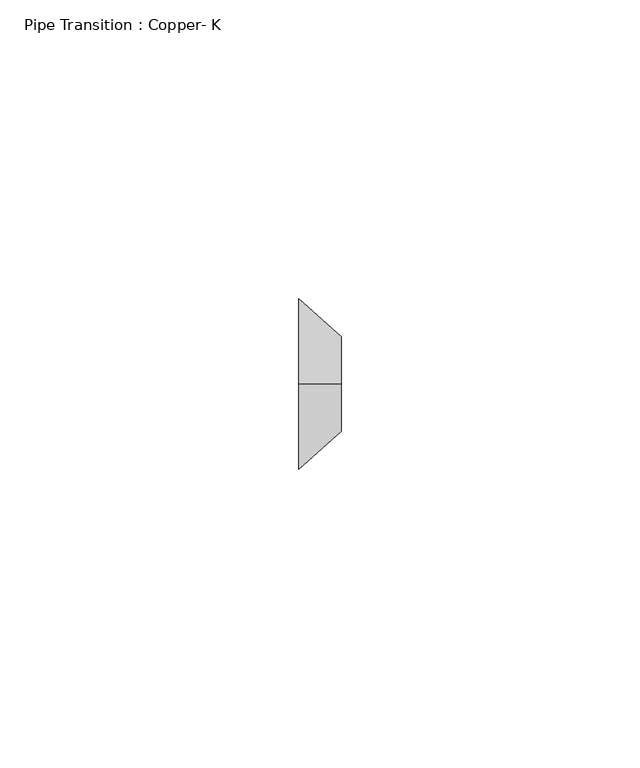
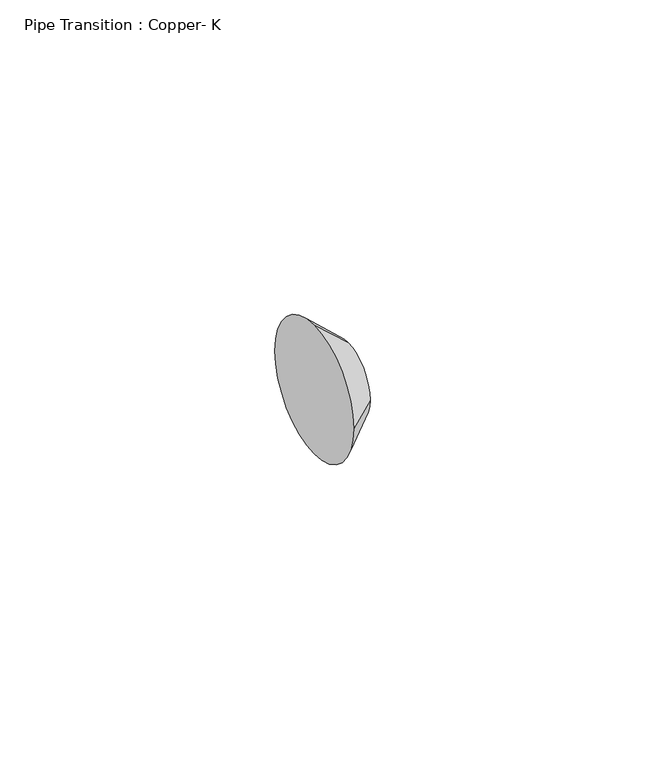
"""IFC4 building model written with IfcOpenShell, lengths in millimetres: pipe fitting geometry, Pipe Transition : Copper- K."""

import ifcopenshell
import ifcopenshell.guid

model = None  # the IFC model being written
_history = None  # IfcOwnerHistory: only IFC2X3 demands one
_inside = {}  # id of a spatial element -> (the spatial element, [elements in it])
_under = {}  # id of a project, library or spatial element -> (it, [spatial elements below it])
_declared = {}  # id of a project -> (the project, [libraries it declares])
_typed = {}  # id of a type object -> (the type object, [elements of that type])
_made_of = {}  # id of a material, layer set ... -> (it, [elements and type objects made of it])


def new_model(schema):
    """Start an empty IFC model of exactly this schema.

    Asked for "IFC4X3", IfcOpenShell would pick the latest addendum, in which some entities
    have other attributes; the version numbers below select the first issue.
    IFC2X3 requires an IfcOwnerHistory on every rooted entity: one is made here for all.
    """
    global model, _history
    if schema == "IFC4X3":
        model = ifcopenshell.file(schema_version=(4, 3, 0, 0))
    else:
        model = ifcopenshell.file(schema=schema)
    _inside.clear()
    _under.clear()
    _declared.clear()
    _typed.clear()
    _made_of.clear()
    _history = None
    if model.schema == "IFC2X3":
        org = make("IfcOrganization", Name="unknown")
        user = make(
            "IfcPersonAndOrganization",
            ThePerson=make("IfcPerson", FamilyName="unknown"),
            TheOrganization=org,
        )
        app = make(
            "IfcApplication",
            ApplicationDeveloper=org,
            Version="unknown",
            ApplicationFullName="unknown",
            ApplicationIdentifier="unknown",
        )
        _history = make(
            "IfcOwnerHistory",
            OwningUser=user,
            OwningApplication=app,
            ChangeAction="ADDED",
            CreationDate=0,
        )
    return model


def make(cls, **values):
    """One entity of the class cls with the attributes given. An attribute that is None is left unset."""
    return model.create_entity(
        cls, **{name: value for name, value in values.items() if value is not None}
    )


def rooted(cls, **values):
    """An entity with a GlobalId (a new one), such as an element, a storey or a relation."""
    return make(cls, GlobalId=ifcopenshell.guid.new(), OwnerHistory=_history, **values)


def si_unit(unit_type, name, prefix=None):
    """IfcSIUnit, for example si_unit("LENGTHUNIT", "METRE", prefix="MILLI")."""
    return make("IfcSIUnit", UnitType=unit_type, Prefix=prefix, Name=name)


def assignment(units):
    """IfcUnitAssignment: the units of a project."""
    return None if units is None else make("IfcUnitAssignment", Units=units)


def point(xyz):
    """IfcCartesianPoint."""
    return None if xyz is None else make("IfcCartesianPoint", Coordinates=xyz)


def direction(xyz):
    """IfcDirection."""
    return None if xyz is None else make("IfcDirection", DirectionRatios=xyz)


def frame(location, z_axis=None, x_axis=None):
    """IfcAxis2Placement3D, a coordinate frame: its origin and axes. An axis left out is left unset."""
    return make(
        "IfcAxis2Placement3D",
        Location=point(location),
        Axis=direction(z_axis),
        RefDirection=direction(x_axis),
    )


def origin():
    """The frame at (0, 0, 0) with its axes left unset."""
    return frame((0.0, 0.0, 0.0))


def place(relative_to, where):
    """IfcLocalPlacement: puts the frame where relative to a parent placement (None: the world)."""
    return make(
        "IfcLocalPlacement", PlacementRelTo=relative_to, RelativePlacement=where
    )


def context(
    kind, dimensions, precision=None, world=None, true_north=None, identifier=None
):
    """IfcGeometricRepresentationContext, for example the 3D "Model" context."""
    return make(
        "IfcGeometricRepresentationContext",
        ContextIdentifier=identifier,
        ContextType=kind,
        CoordinateSpaceDimension=dimensions,
        Precision=precision,
        WorldCoordinateSystem=world,
        TrueNorth=true_north,
    )


def project(units=None, contexts=None):
    """IfcProject with its units and contexts."""
    return rooted(
        "IfcProject",
        Name="project",
        RepresentationContexts=contexts,
        UnitsInContext=assignment(units),
    )


def spatial(cls, under=None, at=None, **own):
    """A site, building, storey or space (cls), placed at a placement, below another one or the project."""
    s = rooted(cls, ObjectPlacement=at, **own)
    if under is not None:
        _under.setdefault(under.id(), (under, []))[1].append(s)
    return s


def circle_curve(where, radius):
    """IfcCircle in the frame where."""
    return make("IfcCircle", Position=where, Radius=radius)


def shape(context_of_items, identifier, shape_type, items):
    """IfcShapeRepresentation: the items that make up one representation, for example the "Body"."""
    return make(
        "IfcShapeRepresentation",
        ContextOfItems=context_of_items,
        RepresentationIdentifier=identifier,
        RepresentationType=shape_type,
        Items=items,
    )


def source(mapping_origin, context_of_items, identifier, shape_type, items):
    """IfcRepresentationMap: a shape defined once, which mapped items show again and again."""
    return make(
        "IfcRepresentationMap",
        MappingOrigin=mapping_origin,
        MappedRepresentation=shape(context_of_items, identifier, shape_type, items),
    )


def transform(
    local_origin,
    x_axis=None,
    y_axis=None,
    z_axis=None,
    scale=None,
    scale2=None,
    scale3=None,
    uniform=True,
):
    """IfcCartesianTransformationOperator3D, or its non-uniform kind. x_axis, y_axis, z_axis: its Axis1, 2, 3."""
    if uniform:
        return make(
            "IfcCartesianTransformationOperator3D",
            Axis1=direction(x_axis),
            Axis2=direction(y_axis),
            LocalOrigin=point(local_origin),
            Scale=scale,
            Axis3=direction(z_axis),
        )
    return make(
        "IfcCartesianTransformationOperator3DnonUniform",
        Axis1=direction(x_axis),
        Axis2=direction(y_axis),
        LocalOrigin=point(local_origin),
        Scale=scale,
        Axis3=direction(z_axis),
        Scale2=scale2,
        Scale3=scale3,
    )


def mapped(mapping_source, mapping_target):
    """IfcMappedItem: shows the shape of a source again, moved by a transform."""
    return make(
        "IfcMappedItem", MappingSource=mapping_source, MappingTarget=mapping_target
    )


def made_of(thing, what):
    """Note that an element or type object is made of a material, layer set ...; save() writes the relation."""
    if what is not None:
        _made_of.setdefault(what.id(), (what, []))[1].append(thing)
    return thing


def element(
    cls,
    number,
    at=None,
    inside=None,
    cuts=None,
    type_object=None,
    material=None,
    context=None,
    identifier="Body",
    shape_type=None,
    held_by="IfcProductDefinitionShape",
    body=None,
    shapes=None,
    **own,
):
    """One element of the class cls, such as IfcWall. Its Tag is "e" and its number.

    at: its placement. inside: the storey or other place that contains it. cuts: it is an
    opening in that element (IfcRelVoidsElement). A single representation is given by context,
    identifier, shape_type and body (its items); several are given by shapes. held_by: the class
    of the entity that holds the representations. save() writes the other relations.
    """
    e = rooted(cls, Tag="e%d" % number, ObjectPlacement=at, **own)
    if body is not None:
        shapes = [shape(context, identifier, shape_type, body)]
    if shapes is not None:
        e.Representation = make(held_by, Representations=shapes)
    if inside is not None:
        _inside.setdefault(inside.id(), (inside, []))[1].append(e)
    if cuts is not None:
        rooted(
            "IfcRelVoidsElement", RelatingBuildingElement=cuts, RelatedOpeningElement=e
        )
    if type_object is not None:
        _typed.setdefault(type_object.id(), (type_object, []))[1].append(e)
    return made_of(e, material)


def aggregate(whole, parts):
    """IfcRelAggregates: a whole, such as a stair, and the parts it consists of."""
    return rooted("IfcRelAggregates", RelatingObject=whole, RelatedObjects=parts)


def save(model, path):
    """Write the relations noted so far, then the file.

    IfcRelAggregates (storeys below a building ...), IfcRelContainedInSpatialStructure (elements
    in a storey), IfcRelDefinesByType, IfcRelAssociatesMaterial and IfcRelDeclares: one each for
    every whole, place, type object, material and project.
    """
    for whole, parts in _under.values():
        aggregate(whole, parts)
    for where, things in _inside.values():
        rooted(
            "IfcRelContainedInSpatialStructure",
            RelatedElements=things,
            RelatingStructure=where,
        )
    for kind, things in _typed.values():
        rooted("IfcRelDefinesByType", RelatedObjects=things, RelatingType=kind)
    for what, things in _made_of.values():
        rooted("IfcRelAssociatesMaterial", RelatedObjects=things, RelatingMaterial=what)
    for by, libraries in _declared.values():
        rooted("IfcRelDeclares", RelatingContext=by, RelatedDefinitions=libraries)
    model.write(path)


def plane_surface(at):
    """IfcPlane: the flat surface through the origin of the frame at, square to its z axis."""
    return make("IfcPlane", Position=at)


def spline_surface(u_degree, v_degree, points, u_multiplicities, v_multiplicities, u_knots, v_knots, weights=None):
    """IfcBSplineSurfaceWithKnots; with weights, IfcRationalBSplineSurfaceWithKnots. points: one row for each step in u."""
    own = dict(
        UDegree=u_degree,
        VDegree=v_degree,
        ControlPointsList=[[point(p) for p in row] for row in points],
        SurfaceForm="UNSPECIFIED",
        UClosed=False,
        VClosed=False,
        SelfIntersect=False,
        UMultiplicities=u_multiplicities,
        VMultiplicities=v_multiplicities,
        UKnots=u_knots,
        VKnots=v_knots,
        KnotSpec="UNSPECIFIED",
    )
    if weights is None:
        return make("IfcBSplineSurfaceWithKnots", **own)
    return make("IfcRationalBSplineSurfaceWithKnots", WeightsData=weights, **own)


def advanced_brep(points, edges, surfaces, faces):
    """IfcAdvancedBrep: a solid bounded by faces that lie on surfaces and meet in shared edges.

    An edge is (start, end): straight between two places in points (the first is 0);
    or (start, end, curve); or (start, end, curve, False) where it runs against its curve.
    A face is (place in surfaces, loops), or (place, loops, False) where it looks against
    its surface's normal. A loop lists edges by number (the first is 1), with a minus sign
    where the edge is run from its end to its start. The first loop is the outer one.
    """
    corners = [point(p) for p in points]
    vertices = [make("IfcVertexPoint", VertexGeometry=c) for c in corners]
    made = []
    for start, end, *more in edges:
        made.append(
            make(
                "IfcEdgeCurve",
                EdgeStart=vertices[start],
                EdgeEnd=vertices[end],
                EdgeGeometry=more[0] if more else make("IfcPolyline", Points=[corners[start], corners[end]]),
                SameSense=more[1] if len(more) > 1 else True,
            )
        )
    hull = []
    for where, loops, *sense in faces:
        bounds = []
        for j, loop in enumerate(loops):
            ring = [make("IfcOrientedEdge", EdgeElement=made[abs(k) - 1], Orientation=k > 0) for k in loop]
            bounds.append(
                make(
                    "IfcFaceOuterBound" if j == 0 else "IfcFaceBound",
                    Bound=make("IfcEdgeLoop", EdgeList=ring),
                    Orientation=True,
                )
            )
        hull.append(make("IfcAdvancedFace", Bounds=bounds, FaceSurface=surfaces[where], SameSense=sense[0] if sense else True))
    return make("IfcAdvancedBrep", Outer=make("IfcClosedShell", CfsFaces=hull))


def pipe_transition_copper_k_c38f01a1(model_context):
    return source(origin(), model_context, "Body", "AdvancedBrep", [
        advanced_brep(
        [(7.14375, -0.0015784, 7.9375), (7.14375, -7.9390784, 0.0), (7.14375, -0.0015784, -7.9375), (7.14375, 7.9359216, 0.0), (0.0, 0.0, 14.2875), (0.0, 14.2875, 0.0), (0.0, 0.0, -14.2875), (0.0, -14.2875, 0.0)],
        [
            (0, 1, circle_curve(frame((7.14375, -0.0015784, 0.0), z_axis=(1.0, 0.0, 0.0), x_axis=(0.0, 1.0, 0.0)), 7.9375)),
            (1, 2, circle_curve(frame((7.14375, -0.0015784, 0.0), z_axis=(1.0, 0.0, 0.0), x_axis=(0.0, 1.0, 0.0)), 7.9375)),
            (2, 3, circle_curve(frame((7.14375, -0.0015784, 0.0), z_axis=(1.0, 0.0, 0.0), x_axis=(0.0, 1.0, 0.0)), 7.9375)),
            (3, 0, circle_curve(frame((7.14375, -0.0015784, 0.0), z_axis=(1.0, 0.0, 0.0), x_axis=(0.0, 1.0, 0.0)), 7.9375)),
            (4, 5, circle_curve(frame((0.0, 0.0, 0.0), z_axis=(-1.0, 0.0, 0.0), x_axis=(0.0, 1.0, 0.0)), 14.2875)),
            (5, 6, circle_curve(frame((0.0, 0.0, 0.0), z_axis=(-1.0, 0.0, 0.0), x_axis=(0.0, 1.0, 0.0)), 14.2875)),
            (6, 7, circle_curve(frame((0.0, 0.0, 0.0), z_axis=(-1.0, 0.0, 0.0), x_axis=(0.0, 1.0, 0.0)), 14.2875)),
            (7, 4, circle_curve(frame((0.0, 0.0, 0.0), z_axis=(-1.0, 0.0, 0.0), x_axis=(0.0, 1.0, 0.0)), 14.2875)),
            (7, 1),
            (0, 4),
            (6, 2),
            (5, 3),
        ],
        [
            plane_surface(frame((7.14375, -0.0015784, 0.0), z_axis=(1.0, 0.0, 0.0), x_axis=(0.0, -1.0, 0.0))),
            plane_surface(frame((0.0, 0.0, 0.0), z_axis=(-1.0, 0.0, 0.0), x_axis=(0.0, -1.0, 0.0))),
            spline_surface(2, 1, [[(0.0, 0.0, 14.2875), (7.14375, -0.0015784, 7.9375)], [(0.0, -14.2875, 14.2875), (7.14375, -7.9390784, 7.9375)], [(0.0, -14.2875, 0.0), (7.14375, -7.9390784, 0.0)]], [3, 3], [2, 2], [0.0, 1.0], [0.0, 1.0], weights=[[1.0, 1.0], [0.7071067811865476, 0.7071067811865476], [1.0, 1.0]]),
            spline_surface(2, 1, [[(0.0, -14.2875, 0.0), (7.14375, -7.9390784, 0.0)], [(0.0, -14.2875, -14.2875), (7.14375, -7.9390784, -7.9375)], [(0.0, 0.0, -14.2875), (7.14375, -0.0015784, -7.9375)]], [3, 3], [2, 2], [0.0, 1.0], [0.0, 1.0], weights=[[1.0, 1.0], [0.7071067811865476, 0.7071067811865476], [1.0, 1.0]]),
            spline_surface(2, 1, [[(0.0, 0.0, -14.2875), (7.14375, -0.0015784, -7.9375)], [(0.0, 14.2875, -14.2875), (7.14375, 7.9359216, -7.9375)], [(0.0, 14.2875, 0.0), (7.14375, 7.9359216, 0.0)]], [3, 3], [2, 2], [0.0, 1.0], [0.0, 1.0], weights=[[1.0, 1.0], [0.7071067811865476, 0.7071067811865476], [1.0, 1.0]]),
            spline_surface(2, 1, [[(0.0, 14.2875, 0.0), (7.14375, 7.9359216, 0.0)], [(0.0, 14.2875, 14.2875), (7.14375, 7.9359216, 7.9375)], [(0.0, 0.0, 14.2875), (7.14375, -0.0015784, 7.9375)]], [3, 3], [2, 2], [0.0, 1.0], [0.0, 1.0], weights=[[1.0, 1.0], [0.7071067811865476, 0.7071067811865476], [1.0, 1.0]]),
        ],
        [
            (0, [[1, 2, 3, 4]]),
            (1, [[5, 6, 7, 8]]),
            (2, [[-8, 9, -1, 10]]),
            (3, [[-7, 11, -2, -9]]),
            (4, [[-6, 12, -3, -11]]),
            (5, [[-5, -10, -4, -12]]),
        ],
    ),
        advanced_brep(
        [(7.14375, -0.0015784, 7.9375), (7.14375, -7.9390784, 0.0), (7.14375, -0.0015784, -7.9375), (7.14375, 7.9359216, 0.0), (0.0, 0.0, 14.2875), (0.0, 14.2875, 0.0), (0.0, 0.0, -14.2875), (0.0, -14.2875, 0.0)],
        [
            (0, 1, circle_curve(frame((7.14375, -0.0015784, 0.0), z_axis=(1.0, 0.0, 0.0), x_axis=(0.0, 1.0, 0.0)), 7.9375)),
            (1, 2, circle_curve(frame((7.14375, -0.0015784, 0.0), z_axis=(1.0, 0.0, 0.0), x_axis=(0.0, 1.0, 0.0)), 7.9375)),
            (2, 3, circle_curve(frame((7.14375, -0.0015784, 0.0), z_axis=(1.0, 0.0, 0.0), x_axis=(0.0, 1.0, 0.0)), 7.9375)),
            (3, 0, circle_curve(frame((7.14375, -0.0015784, 0.0), z_axis=(1.0, 0.0, 0.0), x_axis=(0.0, 1.0, 0.0)), 7.9375)),
            (4, 5, circle_curve(frame((0.0, 0.0, 0.0), z_axis=(-1.0, 0.0, 0.0), x_axis=(0.0, 1.0, 0.0)), 14.2875)),
            (5, 6, circle_curve(frame((0.0, 0.0, 0.0), z_axis=(-1.0, 0.0, 0.0), x_axis=(0.0, 1.0, 0.0)), 14.2875)),
            (6, 7, circle_curve(frame((0.0, 0.0, 0.0), z_axis=(-1.0, 0.0, 0.0), x_axis=(0.0, 1.0, 0.0)), 14.2875)),
            (7, 4, circle_curve(frame((0.0, 0.0, 0.0), z_axis=(-1.0, 0.0, 0.0), x_axis=(0.0, 1.0, 0.0)), 14.2875)),
            (7, 1),
            (0, 4),
            (6, 2),
            (5, 3),
        ],
        [
            plane_surface(frame((7.14375, -0.0015784, 0.0), z_axis=(1.0, 0.0, 0.0), x_axis=(0.0, -1.0, 0.0))),
            plane_surface(frame((0.0, 0.0, 0.0), z_axis=(-1.0, 0.0, 0.0), x_axis=(0.0, -1.0, 0.0))),
            spline_surface(2, 1, [[(0.0, 0.0, 14.2875), (7.14375, -0.0015784, 7.9375)], [(0.0, -14.2875, 14.2875), (7.14375, -7.9390784, 7.9375)], [(0.0, -14.2875, 0.0), (7.14375, -7.9390784, 0.0)]], [3, 3], [2, 2], [0.0, 1.0], [0.0, 1.0], weights=[[1.0, 1.0], [0.7071067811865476, 0.7071067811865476], [1.0, 1.0]]),
            spline_surface(2, 1, [[(0.0, -14.2875, 0.0), (7.14375, -7.9390784, 0.0)], [(0.0, -14.2875, -14.2875), (7.14375, -7.9390784, -7.9375)], [(0.0, 0.0, -14.2875), (7.14375, -0.0015784, -7.9375)]], [3, 3], [2, 2], [0.0, 1.0], [0.0, 1.0], weights=[[1.0, 1.0], [0.7071067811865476, 0.7071067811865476], [1.0, 1.0]]),
            spline_surface(2, 1, [[(0.0, 0.0, -14.2875), (7.14375, -0.0015784, -7.9375)], [(0.0, 14.2875, -14.2875), (7.14375, 7.9359216, -7.9375)], [(0.0, 14.2875, 0.0), (7.14375, 7.9359216, 0.0)]], [3, 3], [2, 2], [0.0, 1.0], [0.0, 1.0], weights=[[1.0, 1.0], [0.7071067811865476, 0.7071067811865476], [1.0, 1.0]]),
            spline_surface(2, 1, [[(0.0, 14.2875, 0.0), (7.14375, 7.9359216, 0.0)], [(0.0, 14.2875, 14.2875), (7.14375, 7.9359216, 7.9375)], [(0.0, 0.0, 14.2875), (7.14375, -0.0015784, 7.9375)]], [3, 3], [2, 2], [0.0, 1.0], [0.0, 1.0], weights=[[1.0, 1.0], [0.7071067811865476, 0.7071067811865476], [1.0, 1.0]]),
        ],
        [
            (0, [[1, 2, 3, 4]]),
            (1, [[5, 6, 7, 8]]),
            (2, [[-8, 9, -1, 10]]),
            (3, [[-7, 11, -2, -9]]),
            (4, [[-6, 12, -3, -11]]),
            (5, [[-5, -10, -4, -12]]),
        ],
    ),
    ])


if __name__ == "__main__":
    model = new_model("IFC4")
    model_context = context("Model", 3, world=origin())
    ifc_project = project(units=[si_unit("LENGTHUNIT", "METRE", prefix="MILLI")], contexts=[model_context])
    site = spatial("IfcSite", under=ifc_project)
    building = spatial("IfcBuilding", under=site)
    placement = place(None, origin())
    pipe_transition_copper_k_shape = pipe_transition_copper_k_c38f01a1(model_context)
    element("IfcPipeFitting", 1, ObjectType="Pipe Transition : Copper- K", at=placement, inside=building, context=model_context, shape_type="MappedRepresentation", body=[
        mapped(pipe_transition_copper_k_shape, transform((0.0, 0.0, 0.0), x_axis=(1.0, 0.0, 0.0), y_axis=(0.0, 1.0, 0.0), z_axis=(0.0, 0.0, 1.0))),
    ])
    save(model, "model.ifc")
